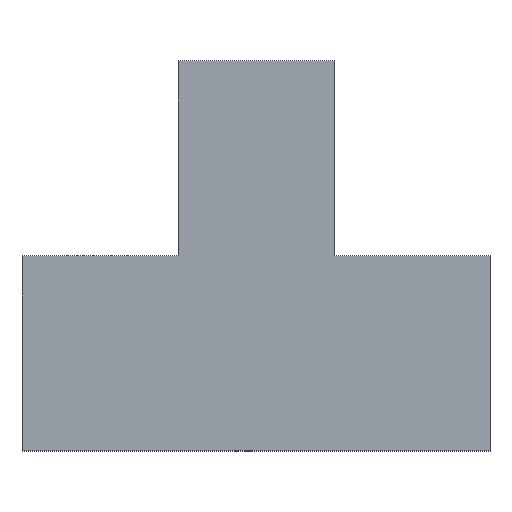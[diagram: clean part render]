
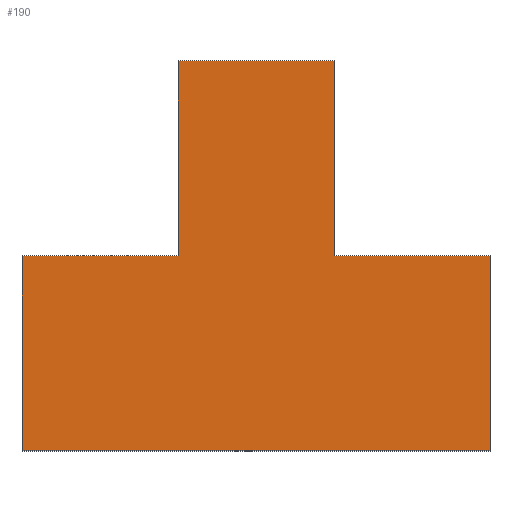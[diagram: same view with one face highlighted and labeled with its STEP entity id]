
A CAD part, top view. The second image highlights one B-rep face of the part: STEP entity #190.
In plain terms, the highlighted planar face has unit normal (0, 0, 1).
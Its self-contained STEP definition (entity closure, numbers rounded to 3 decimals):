
#24=FACE_OUTER_BOUND('',#34,.T.);
#34=EDGE_LOOP('',(#163,#164,#165,#166,#167,#168,#169,#170));
#44=LINE('',#289,#68);
#46=LINE('',#293,#70);
#48=LINE('',#297,#72);
#50=LINE('',#301,#74);
#52=LINE('',#305,#76);
#54=LINE('',#309,#78);
#56=LINE('',#313,#80);
#58=LINE('',#316,#82);
#68=VECTOR('',#236,10.);
#70=VECTOR('',#240,10.);
#72=VECTOR('',#244,10.);
#74=VECTOR('',#248,10.);
#76=VECTOR('',#252,10.);
#78=VECTOR('',#256,10.);
#80=VECTOR('',#260,10.);
#82=VECTOR('',#264,10.);
#91=VERTEX_POINT('',#286);
#92=VERTEX_POINT('',#288);
#93=VERTEX_POINT('',#292);
#94=VERTEX_POINT('',#296);
#95=VERTEX_POINT('',#300);
#96=VERTEX_POINT('',#304);
#97=VERTEX_POINT('',#308);
#98=VERTEX_POINT('',#312);
#108=EDGE_CURVE('',#92,#91,#44,.T.);
#110=EDGE_CURVE('',#93,#92,#46,.T.);
#112=EDGE_CURVE('',#94,#93,#48,.T.);
#114=EDGE_CURVE('',#95,#94,#50,.T.);
#116=EDGE_CURVE('',#96,#95,#52,.T.);
#118=EDGE_CURVE('',#97,#96,#54,.T.);
#120=EDGE_CURVE('',#98,#97,#56,.T.);
#122=EDGE_CURVE('',#91,#98,#58,.T.);
#163=ORIENTED_EDGE('',*,*,#122,.T.);
#164=ORIENTED_EDGE('',*,*,#120,.T.);
#165=ORIENTED_EDGE('',*,*,#118,.T.);
#166=ORIENTED_EDGE('',*,*,#116,.T.);
#167=ORIENTED_EDGE('',*,*,#114,.T.);
#168=ORIENTED_EDGE('',*,*,#112,.T.);
#169=ORIENTED_EDGE('',*,*,#110,.T.);
#170=ORIENTED_EDGE('',*,*,#108,.T.);
#180=PLANE('',#220);
#190=ADVANCED_FACE('',(#24),#180,.T.);
#220=AXIS2_PLACEMENT_3D('',#317,#265,#266);
#236=DIRECTION('',(1.,0.,0.));
#240=DIRECTION('',(0.,-1.,0.));
#244=DIRECTION('',(-1.,0.,0.));
#248=DIRECTION('',(0.,-1.,0.));
#252=DIRECTION('',(-1.,0.,0.));
#256=DIRECTION('',(0.,1.,0.));
#260=DIRECTION('',(-1.,0.,0.));
#264=DIRECTION('',(0.,1.,0.));
#265=DIRECTION('center_axis',(0.,0.,1.));
#266=DIRECTION('ref_axis',(1.,0.,0.));
#286=CARTESIAN_POINT('',(30.,-25.,15.));
#288=CARTESIAN_POINT('',(-30.,-25.,15.));
#289=CARTESIAN_POINT('',(-30.,-25.,15.));
#292=CARTESIAN_POINT('',(-30.,0.,15.));
#293=CARTESIAN_POINT('',(-30.,25.,15.));
#296=CARTESIAN_POINT('',(-10.,0.,15.));
#297=CARTESIAN_POINT('',(-10.,0.,15.));
#300=CARTESIAN_POINT('',(-10.,25.,15.));
#301=CARTESIAN_POINT('',(-10.,25.,15.));
#304=CARTESIAN_POINT('',(10.,25.,15.));
#305=CARTESIAN_POINT('',(30.,25.,15.));
#308=CARTESIAN_POINT('',(10.,0.,15.));
#309=CARTESIAN_POINT('',(10.,0.,15.));
#312=CARTESIAN_POINT('',(30.,0.,15.));
#313=CARTESIAN_POINT('',(30.,0.,15.));
#316=CARTESIAN_POINT('',(30.,-25.,15.));
#317=CARTESIAN_POINT('Origin',(0.,0.,15.));
